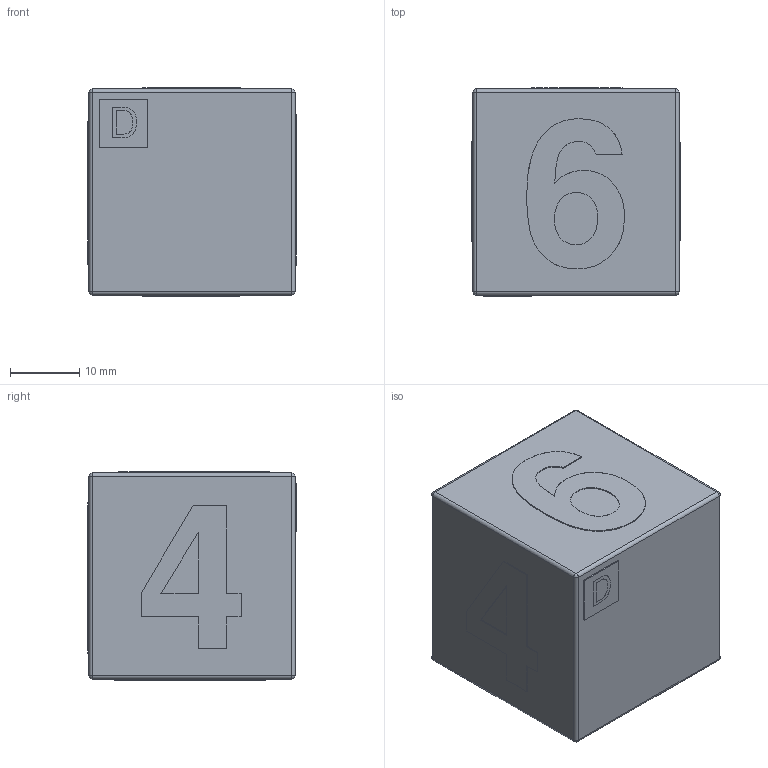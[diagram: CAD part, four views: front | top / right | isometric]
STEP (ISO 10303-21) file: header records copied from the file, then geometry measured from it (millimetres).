
FILE_DESCRIPTION(('Open CASCADE Model'),'2;1');
FILE_NAME('Open CASCADE Shape Model','2025-09-14T20:47:12',('Author'),( 'Open CASCADE'),'Open CASCADE STEP processor 7.8','Open CASCADE 7.8' ,'Unknown');
FILE_SCHEMA(('AUTOMOTIVE_DESIGN { 1 0 10303 214 1 1 1 1 }'));
Length unit declared in the file: millimetre
Products named in the file (18): 9ba2aa2c-91a3-11f0-88d2-1c1b0deae66b; 9ba2abc6-91a3-11f0-88d2-1c1b0deae66b; 9ba2abc6-91a3-11f0-88d2-1c1b0deae66b_part; 9ba59408-91a3-11f0-88d2-1c1b0deae66b; 9ba59408-91a3-11f0-88d2-1c1b0deae66b_part; 9ba76382-91a3-11f0-88d2-1c1b0deae66b; 9ba76382-91a3-11f0-88d2-1c1b0deae66b_part; 9ba8ab16-91a3-11f0-88d2-1c1b0deae66b; 9ba8ab16-91a3-11f0-88d2-1c1b0deae66b_part; 9baa73f6-91a3-11f0-88d2-1c1b0deae66b; 9baa73f6-91a3-11f0-88d2-1c1b0deae66b_part; 9bac1c6a-91a3-11f0-88d2-1c1b0deae66b; 9bac1c6a-91a3-11f0-88d2-1c1b0deae66b_part; 9bb71534-91a3-11f0-88d2-1c1b0deae66b; 9bb71534-91a3-11f0-88d2-1c1b0deae66b_part; 9bb718a4-91a3-11f0-88d2-1c1b0deae66b; 9bb718a4-91a3-11f0-88d2-1c1b0deae66b_part
Assembly tree (17 placements, depth 4):
  9ba2aa2c-91a3-11f0-88d2-1c1b0deae66b
    9ba2aa2c-91a3-11f0-88d2-1c1b0deae66b
      9ba2abc6-91a3-11f0-88d2-1c1b0deae66b
        9ba2abc6-91a3-11f0-88d2-1c1b0deae66b_part
      9ba59408-91a3-11f0-88d2-1c1b0deae66b
        9ba59408-91a3-11f0-88d2-1c1b0deae66b_part
      9ba76382-91a3-11f0-88d2-1c1b0deae66b
        9ba76382-91a3-11f0-88d2-1c1b0deae66b_part
      9ba8ab16-91a3-11f0-88d2-1c1b0deae66b
        9ba8ab16-91a3-11f0-88d2-1c1b0deae66b_part
      9baa73f6-91a3-11f0-88d2-1c1b0deae66b
        9baa73f6-91a3-11f0-88d2-1c1b0deae66b_part
      9bac1c6a-91a3-11f0-88d2-1c1b0deae66b
        9bac1c6a-91a3-11f0-88d2-1c1b0deae66b_part
      9bb71534-91a3-11f0-88d2-1c1b0deae66b
        9bb71534-91a3-11f0-88d2-1c1b0deae66b_part
      9bb718a4-91a3-11f0-88d2-1c1b0deae66b
        9bb718a4-91a3-11f0-88d2-1c1b0deae66b_part
Bounding box: 30 x 30 x 30 mm (x, y, z)
Volume: 26316.7 mm3; surface area: 7136.4 mm2
Topology: 9 solids, 9 shells, 222 faces, 596 edges, 384 vertices
Faces by surface type: extrusion 127, plane 75, cylinder 12, sphere 8
Entity records: 14992 total; most frequent: CARTESIAN_POINT 3690, DIRECTION 1601, VECTOR 1327, LINE 1200, ORIENTED_EDGE 1176, PCURVE 1176, DEFINITIONAL_REPRESENTATION 1176, B_SPLINE_CURVE_WITH_KNOTS 667
